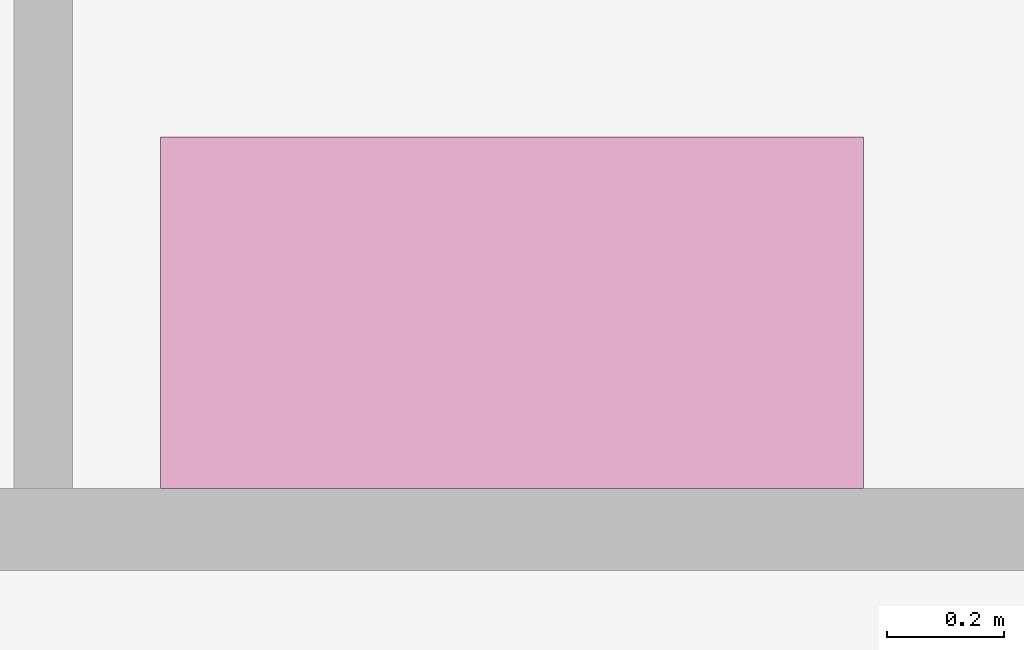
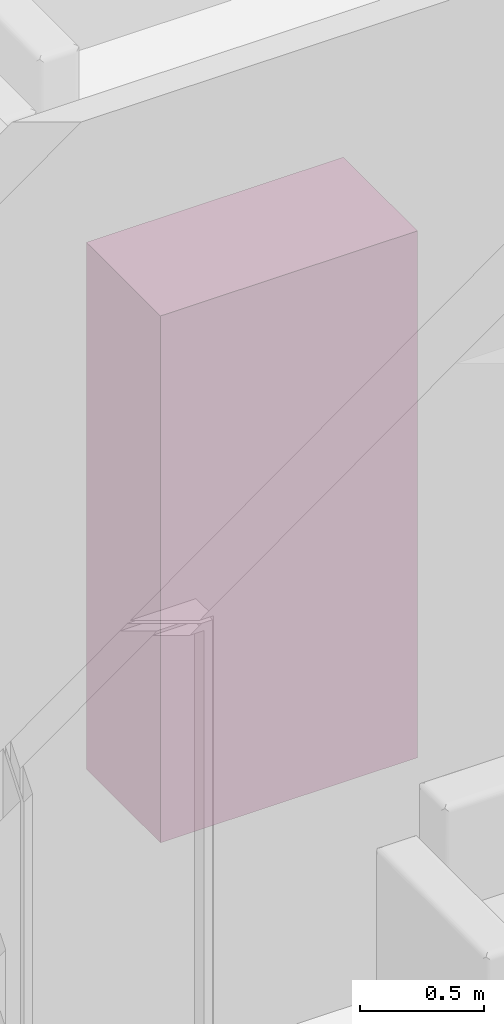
# One storey, part 63 of 71: 1 furniture element.
"""IFC4 building model written with IfcOpenShell, lengths in centimetres."""

from ifc_helpers import new_model, entity, si_unit, converted_unit, derived_unit, direction, frame, origin, place, context, subcontext, project, spatial, indexed_curve, outline, extrude, source, transform, mapped, material, type_object, type_shapes, element, save


model = new_model("IFC4")

# Units and contexts
model_context = context("Model", 3, precision=0.001, world=origin(), true_north=direction((6.123233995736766e-17, 1.0)))
body_context = subcontext(model_context, "Body", "Model", "MODEL_VIEW")
ifc_project = project(units=[si_unit("LENGTHUNIT", "METRE", prefix="CENTI"), si_unit("AREAUNIT", "SQUARE_METRE"), si_unit("VOLUMEUNIT", "CUBIC_METRE"), derived_unit("THERMALTRANSMITTANCEUNIT", [(si_unit("MASSUNIT", "GRAM", prefix="KILO"), 1), (si_unit("THERMODYNAMICTEMPERATUREUNIT", "KELVIN"), -1), (si_unit("TIMEUNIT", "SECOND"), -3)]), converted_unit("PLANEANGLEUNIT", "DEGREE", entity("IfcPlaneAngleMeasure", 0.017453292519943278), si_unit("PLANEANGLEUNIT", "RADIAN"), dimensions=[0, 0, 0, 0, 0, 0, 0]), derived_unit("MASSDENSITYUNIT", [(si_unit("MASSUNIT", "GRAM", prefix="KILO"), 1), (si_unit("LENGTHUNIT", "METRE"), -3)]), derived_unit("VAPORPERMEABILITYUNIT", [(si_unit("LENGTHUNIT", "METRE"), -1), (si_unit("TIMEUNIT", "SECOND"), 1)]), derived_unit("USERDEFINED", [(si_unit("MASSUNIT", "GRAM", prefix="KILO"), 1), (si_unit("TIMEUNIT", "SECOND"), -3), (si_unit("LENGTHUNIT", "METRE"), 3), (si_unit("ELECTRICCURRENTUNIT", "AMPERE"), -2)]), derived_unit("SPECIFICHEATCAPACITYUNIT", [(si_unit("THERMODYNAMICTEMPERATUREUNIT", "KELVIN"), -1), (si_unit("LENGTHUNIT", "METRE"), 2), (si_unit("TIMEUNIT", "SECOND"), -2)]), derived_unit("THERMALCONDUCTANCEUNIT", [(si_unit("MASSUNIT", "GRAM", prefix="KILO"), 1), (si_unit("THERMODYNAMICTEMPERATUREUNIT", "KELVIN"), -1), (si_unit("TIMEUNIT", "SECOND"), -3), (si_unit("LENGTHUNIT", "METRE"), 1)]), si_unit("PRESSUREUNIT", "PASCAL"), derived_unit("MODULUSOFELASTICITYUNIT", [(si_unit("MASSUNIT", "GRAM", prefix="KILO"), 1), (si_unit("LENGTHUNIT", "METRE"), -1), (si_unit("TIMEUNIT", "SECOND"), -2)]), derived_unit("THERMALEXPANSIONCOEFFICIENTUNIT", [(si_unit("THERMODYNAMICTEMPERATUREUNIT", "KELVIN"), -1)])], contexts=[model_context])

# Site, building, storey, space
site_placement = place(None, origin())
site = spatial("IfcSite", under=ifc_project, at=site_placement, Name="Default", CompositionType="ELEMENT")
building_placement = place(site_placement, origin())
building = spatial("IfcBuilding", under=site, at=building_placement, Name="IDS Escape Game Building", CompositionType="ELEMENT")
storey_placement = place(building_placement, frame((0.0, 0.0, 400.0)))
storey = spatial("IfcBuildingStorey", under=building, at=storey_placement, Name="01_First Floor", CompositionType="ELEMENT", Elevation=399.99999999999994)
space_placement = place(storey_placement, origin())
space = spatial("IfcSpace", under=storey, at=space_placement, Name="67", CompositionType="ELEMENT", PredefinedType="NOTDEFINED")

# Furniture
ifc_material = material(Name="<Unnamed>")
furniture_type = type_object("IfcFurnitureType", Name="BPL_82.11_CA_UN_kast_gen_BERSnl:type 1", AssemblyPlace="NOTDEFINED", PredefinedType="NOTDEFINED", material=ifc_material)
shared_shape = source(origin(), body_context, "Body", "SweptSolid", [
    extrude(outline(indexed_curve([(-59.99999999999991, -29.999999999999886), (59.99999999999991, -29.999999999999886), (59.99999999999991, 29.999999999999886), (-59.99999999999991, 29.999999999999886), (-59.99999999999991, -29.999999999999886)], self_intersect=False)), frame((-60.0, -30.0, 0.0), z_axis=(0.0, 0.0, 1.0), x_axis=(-1.0, 0.0, 0.0)), (0.0, 0.0, 1.0), 260.0),
])
type_shapes(furniture_type, [shared_shape])
furniture_placement = place(space_placement, frame((2511.0, 2625.0, 0.0)))
element("IfcFurniture", 1, at=furniture_placement, inside=space, type_object=furniture_type, material=ifc_material, Name="BPL_82.11_CA_UN_kast_gen_BERSnl:type 1", ObjectType="BPL_82.11_CA_UN_kast_gen_BERSnl:type 1", PredefinedType="NOTDEFINED", context=body_context, shape_type="MappedRepresentation", body=[
    mapped(shared_shape, transform((0.0, 0.0, 0.0), scale=1.0)),
])

save(model, "model.ifc")
